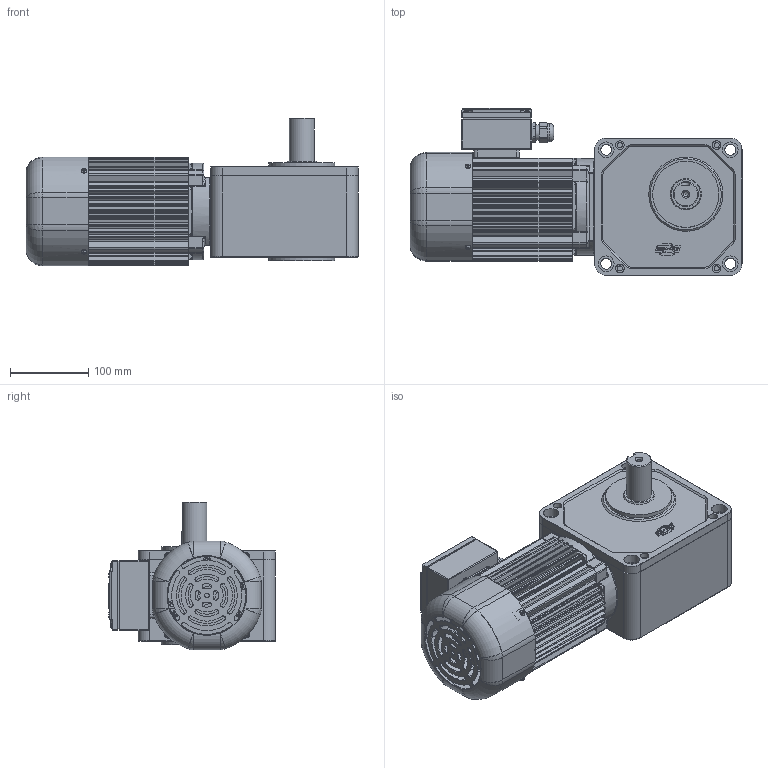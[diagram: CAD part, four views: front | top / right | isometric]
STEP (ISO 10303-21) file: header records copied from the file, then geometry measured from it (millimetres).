
FILE_DESCRIPTION(/* description */ (''),/* implementation_level */ '2;1');
FILE_NAME(/* name */ 'Z:\동력 3D 파일\PCS32L_0.4kW_Brake_3D.stp',/* time_stamp */ '2021-11-09T11:35:23+09:00',/* author */ ('jaebok'),/* organization */ (''),/* preprocessor_version */ 'ST-DEVELOPER v18.1',/* originating_system */ 'Autodesk Inventor 2022',/* authorisation */ '');
FILE_SCHEMA (('AUTOMOTIVE_DESIGN { 1 0 10303 214 3 1 1 }'));
Products named in the file (1): 부품57
Bounding box: 425.5 x 214 x 189.2 mm (x, y, z)
Volume: 2844126.6 mm3; surface area: 717672.5 mm2
Topology: 2 solids, 18 shells, 2017 faces, 5131 edges, 3206 vertices
Faces by surface type: plane 899, cylinder 780, torus 114, cone 103, bspline 93, sphere 28
Full cylindrical faces by diameter (mm): 1.5 x2, 2 x4, 3 x8, 3.242 x5, 3.25 x1, 3.3 x4, 3.6 x4, 3.8 x3, 4 x25, 4.2 x8, 5 x19, 5.8 x2, 5.9 x3, 6 x18, 6.4 x1, 6.5 x10, 6.647 x1, 7 x12, 7.9 x6, 8 x3, 8.5 x1, 8.7 x1, 10 x1, 11 x4, 12.5 x1, 14 x4, 15 x1, 18 x1, 20 x14, 21 x1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
Entity records: 68134 total; most frequent: CARTESIAN_POINT 17151, DIRECTION 10712, ORIENTED_EDGE 10124, EDGE_CURVE 5062, AXIS2_PLACEMENT_3D 4107, VERTEX_POINT 3200, LINE 2498, VECTOR 2498
